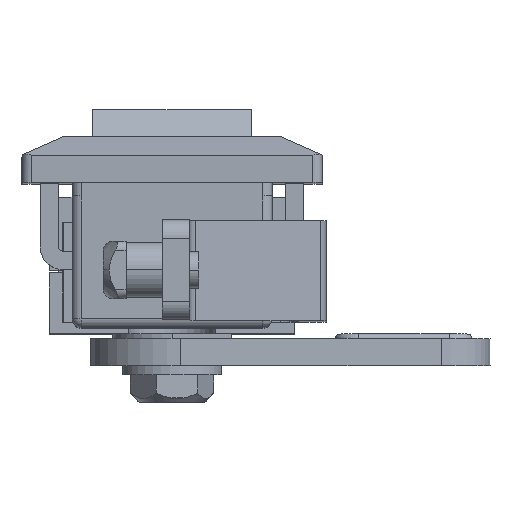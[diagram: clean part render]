
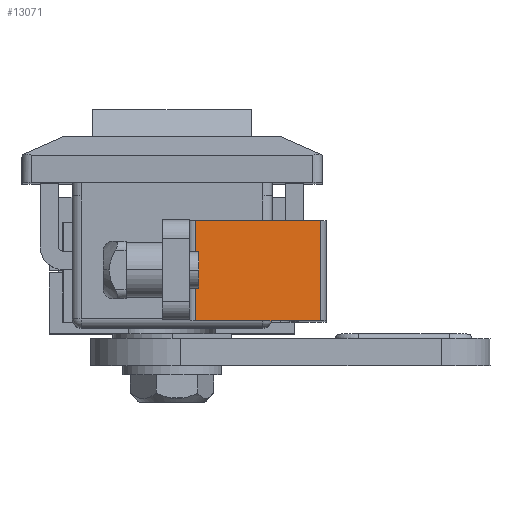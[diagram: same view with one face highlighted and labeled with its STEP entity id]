
A CAD part, top view. The second image highlights one B-rep face of the part: STEP entity #13071.
In plain terms, the highlighted planar face has unit normal (0.682, 0, 0.731) as drawn and (-0.682, 0, -0.731) by its records, which use the part's own axes.
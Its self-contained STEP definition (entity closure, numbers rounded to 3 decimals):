
#582 = CARTESIAN_POINT ( 'NONE',  ( 13.915, -4.25, -20.711 ) ) ;
#878 = VECTOR ( 'NONE', #2440, 1000. ) ;
#2440 = DIRECTION ( 'NONE',  ( 0., 1., 0. ) ) ;
#2839 = VECTOR ( 'NONE', #17391, 1000. ) ;
#2847 = EDGE_CURVE ( 'NONE', #6960, #13541, #3026, .T. ) ;
#3026 = LINE ( 'NONE', #6870, #18704 ) ;
#3163 = VECTOR ( 'NONE', #18841, 1000. ) ;
#3366 = EDGE_CURVE ( 'NONE', #13541, #9328, #3956, .T. ) ;
#3825 = DIRECTION ( 'NONE',  ( -0.731, 0., 0.682 ) ) ;
#3956 = LINE ( 'NONE', #11566, #878 ) ;
#4358 = ORIENTED_EDGE ( 'NONE', *, *, #2847, .T. ) ;
#4778 = CARTESIAN_POINT ( 'NONE',  ( 0.185, -15.25, -7.897 ) ) ;
#4927 = EDGE_CURVE ( 'NONE', #10245, #6960, #11270, .T. ) ;
#5052 = PLANE ( 'NONE',  #15714 ) ;
#6590 = DIRECTION ( 'NONE',  ( 0.731, 0., -0.682 ) ) ;
#6870 = CARTESIAN_POINT ( 'NONE',  ( -3.853, -15.25, -4.128 ) ) ;
#6960 = VERTEX_POINT ( 'NONE', #9063 ) ;
#7299 = CARTESIAN_POINT ( 'NONE',  ( 13.915, -4.25, -20.711 ) ) ;
#7692 = ORIENTED_EDGE ( 'NONE', *, *, #3366, .T. ) ;
#8309 = CARTESIAN_POINT ( 'NONE',  ( -3.853, -4.25, -4.128 ) ) ;
#9063 = CARTESIAN_POINT ( 'NONE',  ( 13.915, -15.25, -20.711 ) ) ;
#9328 = VERTEX_POINT ( 'NONE', #12973 ) ;
#9607 = CARTESIAN_POINT ( 'NONE',  ( -3.853, -4.25, -4.128 ) ) ;
#10245 = VERTEX_POINT ( 'NONE', #7299 ) ;
#11270 = LINE ( 'NONE', #582, #3163 ) ;
#11566 = CARTESIAN_POINT ( 'NONE',  ( 0.185, -4.25, -7.897 ) ) ;
#12973 = CARTESIAN_POINT ( 'NONE',  ( 0.185, -4.25, -7.897 ) ) ;
#13071 = ADVANCED_FACE ( 'NONE', ( #14172 ), #5052, .F. ) ;
#13541 = VERTEX_POINT ( 'NONE', #4778 ) ;
#14172 = FACE_OUTER_BOUND ( 'NONE', #14477, .T. ) ;
#14477 = EDGE_LOOP ( 'NONE', ( #15544, #15922, #4358, #7692 ) ) ;
#14991 = LINE ( 'NONE', #8309, #2839 ) ;
#15544 = ORIENTED_EDGE ( 'NONE', *, *, #17467, .F. ) ;
#15705 = DIRECTION ( 'NONE',  ( 0.682, 0., 0.731 ) ) ;
#15714 = AXIS2_PLACEMENT_3D ( 'NONE', #9607, #15705, #6590 ) ;
#15922 = ORIENTED_EDGE ( 'NONE', *, *, #4927, .T. ) ;
#17391 = DIRECTION ( 'NONE',  ( -0.731, 0., 0.682 ) ) ;
#17467 = EDGE_CURVE ( 'NONE', #10245, #9328, #14991, .T. ) ;
#18704 = VECTOR ( 'NONE', #3825, 1000. ) ;
#18841 = DIRECTION ( 'NONE',  ( 0., -1., 0. ) ) ;
